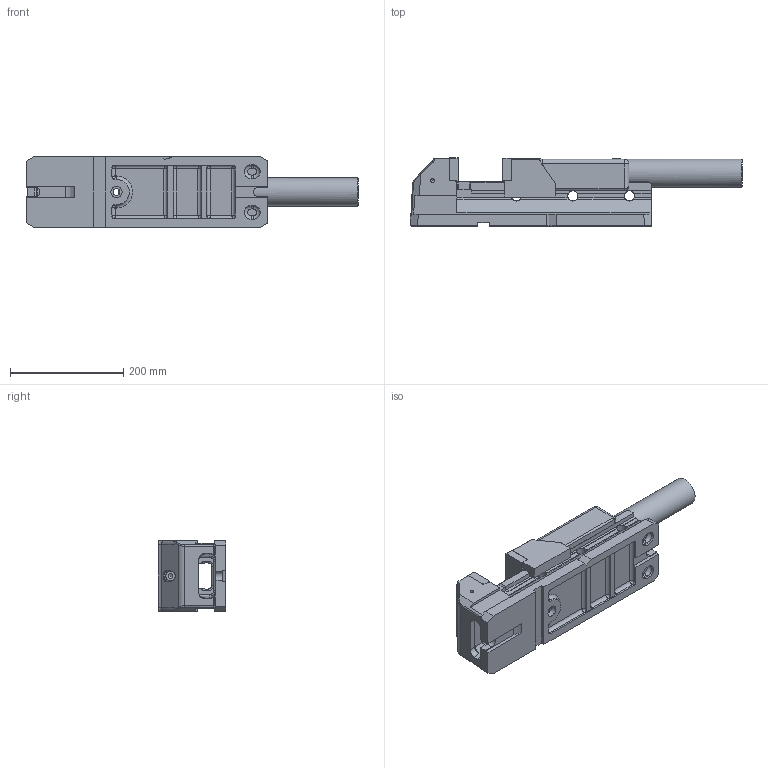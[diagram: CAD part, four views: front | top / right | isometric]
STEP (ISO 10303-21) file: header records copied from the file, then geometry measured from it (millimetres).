
FILE_DESCRIPTION (( 'STEP AP214' ), '1' );
FILE_NAME ('6921021000055.STEP', '2016-03-07T10:10:48', ( '' ), ( '' ), 'SwSTEP 2.0', 'SolidWorks 2015', '' );
FILE_SCHEMA (( 'AUTOMOTIVE_DESIGN' ));
Length unit declared in the file: millimetre
Products named in the file (3): 3D-6921021000046-Unterteil; 3D-6921021000046-Oberteil; 6921021000055
Assembly tree (2 placements, depth 2):
  6921021000055
    3D-6921021000046-Unterteil
    3D-6921021000046-Oberteil
Bounding box: 587.05 x 120.05 x 125 mm (x, y, z)
Volume: 3650858.4 mm3; surface area: 451474.5 mm2
Topology: 4 solids, 4 shells, 588 faces, 1558 edges, 943 vertices
Faces by surface type: plane 260, cylinder 213, bspline 56, torus 37, sphere 18, cone 4
Full cylindrical faces by diameter (mm): 6.8 x2, 8.5 x2, 12 x1, 12.2 x2, 17 x3, 18 x6, 20 x1, 50 x1
Entity records: 25029 total; most frequent: CARTESIAN_POINT 6320, ORIENTED_EDGE 2982, DIRECTION 2748, EDGE_CURVE 1491, AXIS2_PLACEMENT_3D 934, VERTEX_POINT 932, LINE 880, VECTOR 880
